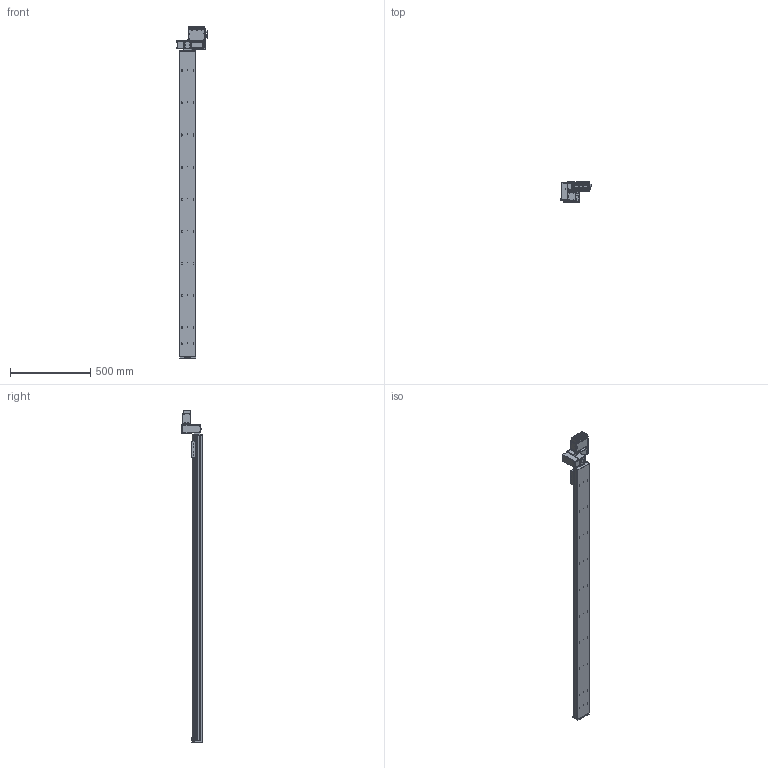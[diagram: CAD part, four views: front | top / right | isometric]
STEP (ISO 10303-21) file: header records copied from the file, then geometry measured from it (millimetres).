
FILE_DESCRIPTION (( 'STEP AP203' ), '1' );
FILE_NAME ('S10 TBN LT S1900.STEP', '2012-06-19T13:04:08', ( 'Conseil Régional Haute-Normandie' ), ( 'Conseil Régional Haute-Normandie' ), 'SwSTEP 2.0', 'SolidWorks 2010', '' );
FILE_SCHEMA (( 'CONFIG_CONTROL_DESIGN' ));
Length unit declared in the file: millimetre
Products named in the file (29): Cvis M5 L30_Default; renvoi LH_Default; vis M5 L12_Default; Vis M5 L16-2_Default_1; BU45 Carte d''axe A11_5; Colonnette_3; Connecteur rond D12 4cts_5; Sub D 9cts 90_X2_00B_X0__3; Radiateur profil_X2_00E9_X0_ 100x25_3; axe 1900; S10 TBN LT S1900; cache t皻e axe_Default; cache t皻e_Default; embout; palette tbn; plaque de bout s10_Default; Plaque racord_Default; vis M5 L5_Default; Assem1_7; T_X2_00F4_X0_le contre le moteur_5; BU41 Carte Alimentation P05_3; Moteur 60BLDC90A_3; Couvercle_3; T_X2_00F4_X0_le fond_3; Connecteur rond D10 3cts_5; Colonnette ronde_3; T_X2_00F4_X0_le Arri_X2_00E8_X0_re_5; T_X2_00F4_X0_le lat_X2_00E9_X0_rale_5; Vis TF 3 torkx_1_1
Assembly tree (62 placements, depth 3):
  S10 TBN LT S1900
    vis M5 L5_Default  x4
    Vis M5 L16-2_Default_1  x4
    cache t皻e axe_Default
    plaque de bout s10_Default
    vis M5 L12_Default  x4
    Assem1_7
      Radiateur profil_X2_00E9_X0_ 100x25_3
      Colonnette ronde_3
      T_X2_00F4_X0_le Arri_X2_00E8_X0_re_5
      Vis TF 3 torkx_1_1  x21
      BU41 Carte Alimentation P05_3
      T_X2_00F4_X0_le lat_X2_00E9_X0_rale_5  x2
      Sub D 9cts 90_X2_00B_X0__3
      Colonnette_3  x2
      Connecteur rond D10 3cts_5  x2
      Moteur 60BLDC90A_3
      T_X2_00F4_X0_le fond_3
      BU45 Carte d''axe A11_5
      T_X2_00F4_X0_le contre le moteur_5
      Connecteur rond D12 4cts_5
      Couvercle_3
    Cvis M5 L30_Default  x2
    cache t皻e_Default  x2
    Plaque racord_Default
    palette tbn
    embout
    renvoi LH_Default
    axe 1900
Bounding box: 189.8 x 127.25 x 2066.74 mm (x, y, z)
Volume: 10704524.3 mm3; surface area: 1214060.2 mm2
Topology: 61 solids, 61 shells, 2347 faces, 5814 edges, 3747 vertices
Faces by surface type: plane 1108, cylinder 1014, cone 182, bspline 40, torus 3
Entity records: 49083 total; most frequent: CARTESIAN_POINT 8838, DIRECTION 7957, ORIENTED_EDGE 7208, EDGE_CURVE 3604, AXIS2_PLACEMENT_3D 2965, VERTEX_POINT 2351, LINE 2027, VECTOR 2027
